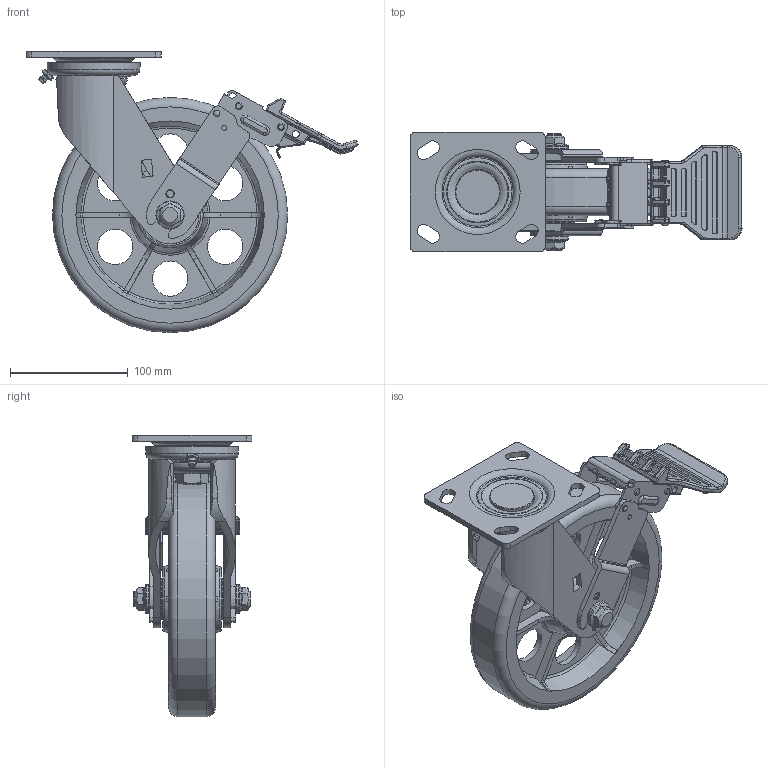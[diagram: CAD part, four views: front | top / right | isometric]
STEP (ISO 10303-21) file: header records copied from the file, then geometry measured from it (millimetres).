
FILE_DESCRIPTION((''),'2;1');
FILE_NAME('C:\Documents and Settings\Administrator\바탕 화면\PM-200\PM-200B-SF-MUD.stp','2012-02-06T18:41:49',('Administrator'),(''),'Autodesk Inventor 2009','Autodesk Inventor 2009','');
FILE_SCHEMA(('AUTOMOTIVE_DESIGN { 1 0 10303 214 1 1 1 1 }'));
Length unit declared in the file: millimetre
Products named in the file (1): PM-200B-SF-MUD
Bounding box: 282.28 x 102 x 239.2 mm (x, y, z)
Volume: 1032299.8 mm3; surface area: 276471.4 mm2
Topology: 5 solids, 5 shells, 1668 faces, 4535 edges, 2802 vertices
Faces by surface type: cylinder 606, plane 537, bspline 283, torus 93, sphere 90, cone 59
Full cylindrical faces by diameter (mm): 3 x3, 4 x3, 4.2 x8, 4.8 x2, 6 x2, 7 x2, 7.5 x2, 8 x2, 12 x2, 15 x2, 15.2 x2, 16 x3, 18 x1, 21.5 x3, 22 x1, 24 x2, 29 x1, 30 x6, 30.5 x4, 35 x2, 38 x1, 41.192 x1, 44 x1, 61.087 x1, 63.14 x1, 65.14 x1, 69 x1, 79 x1, 200 x1
Entity records: 76624 total; most frequent: CARTESIAN_POINT 37477, ORIENTED_EDGE 8312, DIRECTION 7940, EDGE_CURVE 4156, AXIS2_PLACEMENT_3D 3105, VERTEX_POINT 2688, EDGE_LOOP 1976, VECTOR 1730
